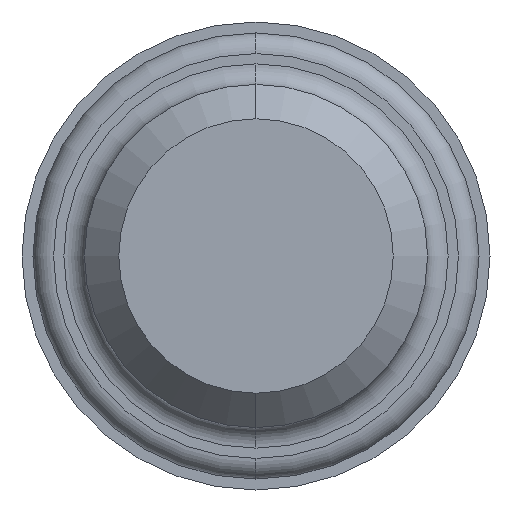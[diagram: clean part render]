
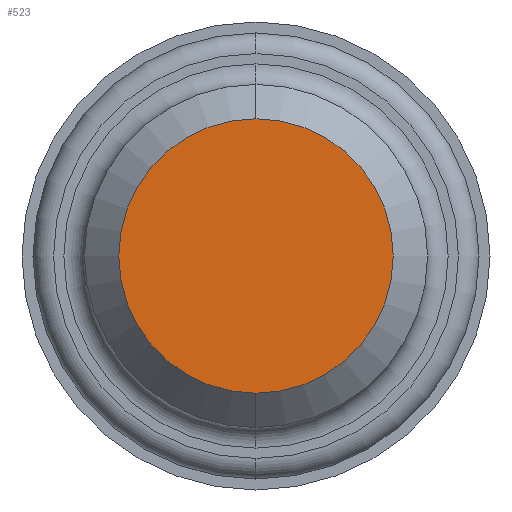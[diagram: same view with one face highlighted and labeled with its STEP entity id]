
A CAD part, left-side view. The second image highlights one B-rep face of the part: STEP entity #523.
In plain terms, the highlighted planar face has unit normal (-1, 0, 0).
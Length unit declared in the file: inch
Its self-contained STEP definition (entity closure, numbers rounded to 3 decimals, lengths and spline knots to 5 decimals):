
#1 = VERTEX_POINT ( 'NONE', #473 ) ;
#13 = AXIS2_PLACEMENT_3D ( 'NONE', #607, #156, #645 ) ;
#125 = CIRCLE ( 'NONE', #13, 0.2 ) ;
#156 = DIRECTION ( 'NONE',  ( -1., 0., 0. ) ) ;
#172 = AXIS2_PLACEMENT_3D ( 'NONE', #601, #245, #444 ) ;
#174 = AXIS2_PLACEMENT_3D ( 'NONE', #352, #188, #250 ) ;
#188 = DIRECTION ( 'NONE',  ( 1., 0., 0. ) ) ;
#197 = VERTEX_POINT ( 'NONE', #518 ) ;
#245 = DIRECTION ( 'NONE',  ( -1., 0., 0. ) ) ;
#250 = DIRECTION ( 'NONE',  ( 0., 0., -1. ) ) ;
#294 = ORIENTED_EDGE ( 'NONE', *, *, #485, .T. ) ;
#295 = FACE_OUTER_BOUND ( 'NONE', #644, .T. ) ;
#351 = ORIENTED_EDGE ( 'NONE', *, *, #539, .T. ) ;
#352 = CARTESIAN_POINT ( 'NONE',  ( 0., 0., 0. ) ) ;
#444 = DIRECTION ( 'NONE',  ( 0., 0., 1. ) ) ;
#473 = CARTESIAN_POINT ( 'NONE',  ( 0., 0., -0.2 ) ) ;
#485 = EDGE_CURVE ( 'NONE', #1, #197, #125, .T. ) ;
#518 = CARTESIAN_POINT ( 'NONE',  ( 0., 0., 0.2 ) ) ;
#523 = ADVANCED_FACE ( 'NONE', ( #295 ), #592, .F. ) ;
#530 = CIRCLE ( 'NONE', #172, 0.2 ) ;
#539 = EDGE_CURVE ( 'NONE', #197, #1, #530, .T. ) ;
#592 = PLANE ( 'NONE',  #174 ) ;
#601 = CARTESIAN_POINT ( 'NONE',  ( 0., 0., 0. ) ) ;
#607 = CARTESIAN_POINT ( 'NONE',  ( 0., 0., 0. ) ) ;
#644 = EDGE_LOOP ( 'NONE', ( #294, #351 ) ) ;
#645 = DIRECTION ( 'NONE',  ( 0., 0., 1. ) ) ;
